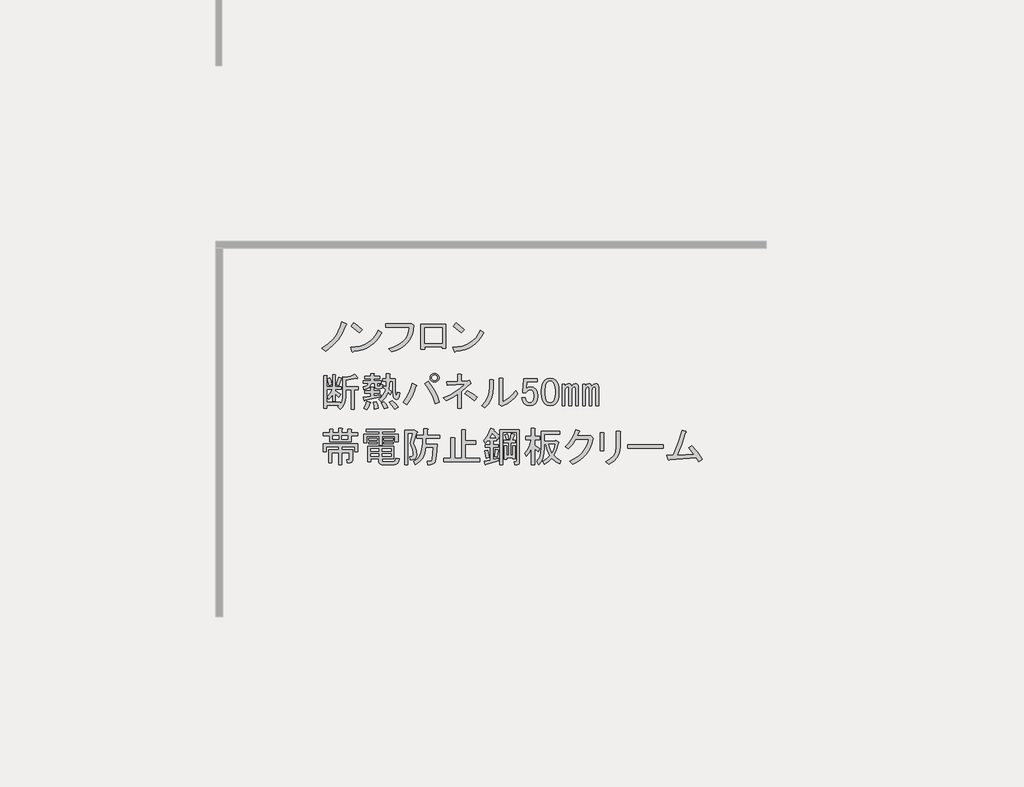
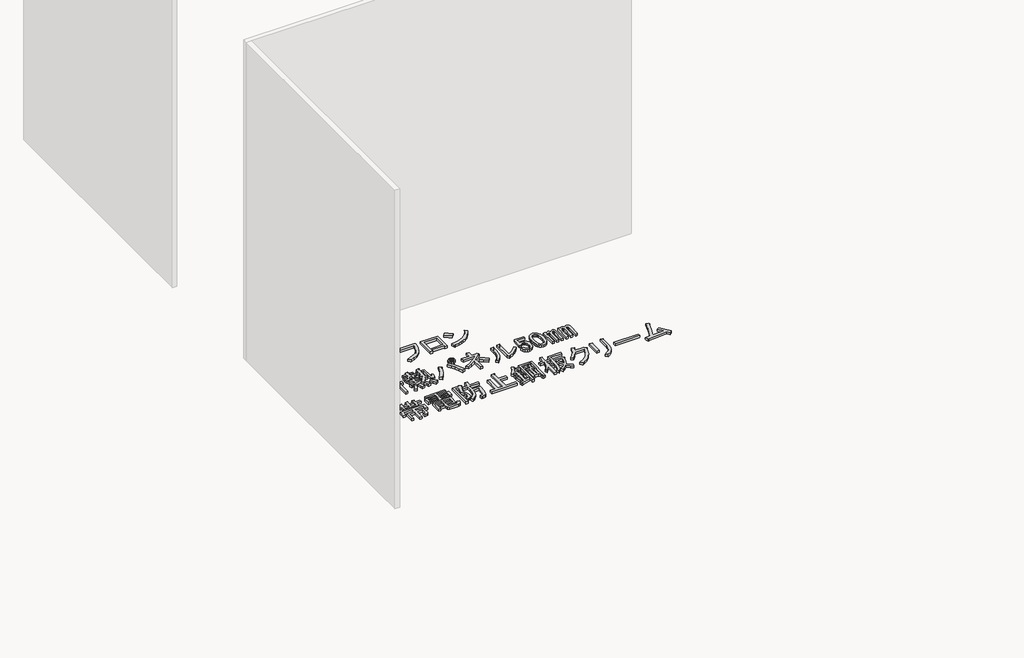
# One storey, part 68 of 117: 1 proxy.
"""IFC4 building model written with IfcOpenShell, lengths in millimetres."""

from ifc_helpers import new_model, si_unit, frame, origin, place, context, project, spatial, polyline, outline, extrude, element, save

model = new_model("IFC4")

# Units and contexts
model_context = context("Model", 3, world=origin())
ifc_project = project(units=[si_unit("LENGTHUNIT", "METRE", prefix="MILLI")], contexts=[model_context])

# Site, building, storey
site = spatial("IfcSite", under=ifc_project)
building = spatial("IfcBuilding", under=site)
storey = spatial("IfcBuildingStorey", under=building, Name="レベル 1", Elevation=500.0)

# Proxy
placement = place(None, origin())
element("IfcBuildingElementProxy", 1, Name="200㎜\u3000MS Pゴシック", ObjectType="200㎜\u3000MS Pゴシック", at=placement, inside=storey, context=model_context, shape_type="SweptSolid", body=[
    extrude(outline(polyline([(-15056.3293015, 7392.9503118), (-15081.9047498, 7333.1784775), (-15110.353844, 7287.2001434), (-15152.0217093, 7241.7965385), (-15201.1610538, 7204.439142), (-15228.7480543, 7226.2788507), (-15181.0455327, 7256.7394971), (-15141.3892195, 7295.2463519), (-15124.0036619, 7319.1694538), (-15108.6296565, 7347.2593423), (-15095.2672031, 7379.5160173), (-15083.9163019, 7415.9394788), (-15052.8809264, 7402.1459786), (-15049.7199159, 7397.5481452), (-15056.3293015, 7392.9503118)])), frame((0.0, 0.0, 500.0), z_axis=(0.0, 0.0, 1.0), x_axis=(1.0, 0.0, 0.0)), (0.0, 0.0, 1.0), 25.0),
    extrude(outline(polyline([(-14956.6022948, 7337.7763109), (-15015.2246708, 7384.9041033), (-14995.6838788, 7409.0427287), (-14968.3842429, 7389.2145721), (-14934.7625862, 7359.6160196), (-14956.6022948, 7337.7763109)])), frame((0.0, 0.0, 500.0), z_axis=(0.0, 0.0, 1.0), x_axis=(1.0, 0.0, 0.0)), (0.0, 0.0, 1.0), 25.0),
    extrude(outline(polyline([(-14794.5286672, 7337.7763109), (-14811.052131, 7308.034076), (-14830.1618761, 7282.0275808), (-14851.8579025, 7259.7568252), (-14876.1402102, 7241.2218093), (-14903.0087992, 7226.422533), (-14932.4636694, 7215.3589964), (-14964.504821, 7208.0311994), (-14999.1322539, 7204.439142), (-15004.8795456, 7196.3929336), (-15010.6268374, 7202.1402253), (-15019.8225042, 7232.0261425), (-14983.9917321, 7234.7022252), (-14951.2142088, 7241.0062859), (-14921.4899342, 7250.9383244), (-14894.8189084, 7264.4983409), (-14871.2011313, 7281.6863354), (-14850.636603, 7302.5023077), (-14833.1253234, 7326.946258), (-14818.6672926, 7355.0181862), (-14794.5286672, 7337.7763109)])), frame((0.0, 0.0, 500.0), z_axis=(0.0, 0.0, 1.0), x_axis=(1.0, 0.0, 0.0)), (0.0, 0.0, 1.0), 25.0),
    extrude(outline(polyline([(-14743.7685864, 7222.8304757), (-14709.985287, 7232.5110702), (-14680.4765359, 7244.8857078), (-14655.242333, 7259.9543884), (-14634.2826783, 7277.717112), (-14617.597572, 7298.1738786), (-14605.1870138, 7321.3246882), (-14597.0510039, 7347.1695409), (-14593.1895423, 7375.7084365), (-14765.6082951, 7375.7084365), (-14765.6082951, 7400.9965202), (-14590.8906256, 7400.9965202), (-14574.7982086, 7404.4448953), (-14562.1541668, 7392.9503118), (-14565.674383, 7356.4550091), (-14573.9361149, 7323.4080815), (-14586.9393625, 7293.8095289), (-14604.6841258, 7267.6593514), (-14627.1704048, 7244.957549), (-14654.3981995, 7225.7041216), (-14686.3675099, 7209.8990692), (-14723.078336, 7197.5423919), (-14743.7685864, 7222.8304757)])), frame((0.0, 0.0, 500.0), z_axis=(0.0, 0.0, 1.0), x_axis=(1.0, 0.0, 0.0)), (0.0, 0.0, 1.0), 25.0),
    extrude(outline(polyline([(-14329.044013, 7223.979934), (-14355.4815551, 7223.979934), (-14355.4815551, 7236.6239759), (-14483.0714321, 7236.6239759), (-14483.0714321, 7218.2326423), (-14509.5089742, 7218.2326423), (-14509.5089742, 7397.5481452), (-14329.044013, 7397.5481452), (-14329.044013, 7223.979934)]), holes=[polyline([(-14483.0714321, 7372.2600614), (-14483.0714321, 7261.9120596), (-14355.4815551, 7261.9120596), (-14355.4815551, 7372.2600614), (-14483.0714321, 7372.2600614)])]), frame((0.0, 0.0, 500.0), z_axis=(0.0, 0.0, 1.0), x_axis=(1.0, 0.0, 0.0)), (0.0, 0.0, 1.0), 25.0),
    extrude(outline(polyline([(-14052.9900951, 7337.7763109), (-14069.5135589, 7308.034076), (-14088.623304, 7282.0275808), (-14110.3193304, 7259.7568252), (-14134.6016381, 7241.2218093), (-14161.4702271, 7226.422533), (-14190.9250974, 7215.3589964), (-14222.9662489, 7208.0311994), (-14257.5936818, 7204.439142), (-14263.3409736, 7196.3929336), (-14269.0882653, 7202.1402253), (-14278.2839321, 7232.0261425), (-14242.4531601, 7234.7022252), (-14209.6756367, 7241.0062859), (-14179.9513622, 7250.9383244), (-14153.2803363, 7264.4983409), (-14129.6625593, 7281.6863354), (-14109.0980309, 7302.5023077), (-14091.5867514, 7326.946258), (-14077.1287205, 7355.0181862), (-14052.9900951, 7337.7763109)])), frame((0.0, 0.0, 500.0), z_axis=(0.0, 0.0, 1.0), x_axis=(1.0, 0.0, 0.0)), (0.0, 0.0, 1.0), 25.0),
    extrude(outline(polyline([(-14215.0637228, 7337.7763109), (-14273.6860987, 7384.9041033), (-14254.1453067, 7409.0427287), (-14226.8456709, 7389.2145721), (-14193.2240141, 7359.6160196), (-14215.0637228, 7337.7763109)])), frame((0.0, 0.0, 500.0), z_axis=(0.0, 0.0, 1.0), x_axis=(1.0, 0.0, 0.0)), (0.0, 0.0, 1.0), 25.0),
    extrude(outline(polyline([(-15122.9978859, 6960.7654779), (-15105.7560106, 7013.6405621), (-15085.0657603, 7007.8932704), (-15083.3415727, 7004.7322599), (-15087.364677, 7002.1459786), (-15104.6065522, 6953.8687278), (-15122.9978859, 6960.7654779)])), frame((0.0, 0.0, 500.0), z_axis=(0.0, 0.0, 1.0), x_axis=(1.0, 0.0, 0.0)), (0.0, 0.0, 1.0), 25.0),
    extrude(outline(polyline([(-14968.9704667, 7009.0427287), (-14970.6946542, 7004.4448953), (-14978.1661335, 7006.743812), (-15055.1798431, 6994.0997701), (-15055.1798431, 6944.673061), (-14963.2231749, 6944.673061), (-14963.2231749, 6922.8333523), (-14994.2585505, 6922.8333523), (-14994.2585505, 6782.5994334), (-15017.2477175, 6782.5994334), (-15017.2477175, 6922.8333523), (-15055.1798431, 6922.8333523), (-15055.1798431, 6873.4066432), (-15057.7661244, 6845.6041193), (-15065.5249683, 6820.8189236), (-15078.4563747, 6799.051056), (-15096.5603438, 6780.3005167), (-15113.8022191, 6799.8413086), (-15103.4570939, 6809.0369755), (-15193.1148454, 6809.0369755), (-15193.1148454, 6787.1972668), (-15216.1040124, 6787.1972668), (-15216.1040124, 7026.284604), (-15194.2643037, 7026.284604), (-15189.3791057, 7023.9856873), (-15193.1148454, 7019.3878539), (-15193.1148454, 6943.5236026), (-15150.5848863, 6943.5236026), (-15150.5848863, 7030.8824374), (-15132.1935527, 7030.8824374), (-15127.3083547, 7028.5835207), (-15131.0440943, 7023.9856873), (-15131.0440943, 6943.5236026), (-15087.364677, 6943.5236026), (-15087.364677, 6925.132269), (-15131.0440943, 6925.132269), (-15131.0440943, 6915.9366022), (-15090.813052, 6889.4990601), (-15104.6065522, 6867.6593514), (-15131.0440943, 6894.0968935), (-15131.0440943, 6841.2218093), (-15150.5848863, 6841.2218093), (-15150.5848863, 6889.4990601), (-15163.8036574, 6869.6709035), (-15178.1718868, 6853.8658512), (-15190.8159287, 6872.2571848), (-15168.97622, 6896.3958102), (-15151.7343447, 6925.132269), (-15193.1148454, 6925.132269), (-15193.1148454, 6830.8766841), (-15095.4108854, 6830.8766841), (-15095.4108854, 6817.0831839), (-15082.479479, 6841.2218093), (-15078.1690102, 6874.5561015), (-15078.1690102, 7019.3878539), (-15056.3293015, 7013.6405621), (-15020.1213634, 7021.1120414), (-14989.660717, 7034.3308125), (-14968.9704667, 7009.0427287)])), frame((0.0, 0.0, 500.0), z_axis=(0.0, 0.0, 1.0), x_axis=(1.0, 0.0, 0.0)), (0.0, 0.0, 1.0), 25.0),
    extrude(outline(polyline([(-15177.0224284, 6952.7192695), (-15189.6664703, 7003.2954369), (-15170.1256783, 7010.1921871), (-15162.3668344, 6986.0535617), (-15157.4816364, 6959.6160196), (-15177.0224284, 6952.7192695)])), frame((0.0, 0.0, 500.0), z_axis=(0.0, 0.0, 1.0), x_axis=(1.0, 0.0, 0.0)), (0.0, 0.0, 1.0), 25.0),
    extrude(outline(polyline([(-14878.1632569, 6832.0261425), (-14874.7148818, 6827.1409445), (-14880.4621736, 6823.979934), (-14890.2325696, 6798.4044857), (-14901.1524239, 6779.1510583), (-14924.141591, 6790.6456418), (-14911.4975491, 6814.209538), (-14901.1524239, 6841.2218093), (-14878.1632569, 6832.0261425)])), frame((0.0, 0.0, 500.0), z_axis=(0.0, 0.0, 1.0), x_axis=(1.0, 0.0, 0.0)), (0.0, 0.0, 1.0), 25.0),
    extrude(outline(polyline([(-14833.3343812, 6836.6239759), (-14823.2766206, 6809.32434), (-14818.3914226, 6787.1972668), (-14847.1278814, 6781.449975), (-14849.7141627, 6803.0023191), (-14857.4730066, 6833.1756008), (-14833.3343812, 6836.6239759)])), frame((0.0, 0.0, 500.0), z_axis=(0.0, 0.0, 1.0), x_axis=(1.0, 0.0, 0.0)), (0.0, 0.0, 1.0), 25.0),
    extrude(outline(polyline([(-14718.388546, 6842.3712677), (-14693.6751914, 6821.1062881), (-14674.7091286, 6796.3929336), (-14701.1466707, 6781.449975), (-14720.4000981, 6811.0485276), (-14739.0787963, 6830.8766841), (-14718.388546, 6842.3712677)])), frame((0.0, 0.0, 500.0), z_axis=(0.0, 0.0, 1.0), x_axis=(1.0, 0.0, 0.0)), (0.0, 0.0, 1.0), 25.0),
    extrude(outline(polyline([(-14777.0109219, 6783.7488917), (-14785.344495, 6808.4622463), (-14798.8506306, 6829.7272258), (-14778.1603803, 6837.7734343), (-14761.2058696, 6816.2210902), (-14749.4239215, 6792.9445585), (-14777.0109219, 6783.7488917)])), frame((0.0, 0.0, 500.0), z_axis=(0.0, 0.0, 1.0), x_axis=(1.0, 0.0, 0.0)), (0.0, 0.0, 1.0), 25.0),
    extrude(outline(polyline([(-14916.0953825, 6846.9691011), (-14918.1069346, 6842.0839031), (-14921.8426743, 6843.520726), (-14927.589966, 6867.6593514), (-14872.4159651, 6875.7055599), (-14872.4159651, 6898.6947269), (-14916.0953825, 6898.6947269), (-14916.0953825, 6917.0860605), (-14872.4159651, 6917.0860605), (-14872.4159651, 6940.0752276), (-14854.0246315, 6940.0752276), (-14849.1394335, 6937.7763109), (-14852.8751732, 6933.1784775), (-14852.8751732, 6917.0860605), (-14808.0462974, 6917.0860605), (-14808.0462974, 6898.6947269), (-14852.8751732, 6898.6947269), (-14852.8751732, 6879.1539349), (-14802.2990057, 6888.3496017), (-14802.2990057, 6872.2571848), (-14916.0953825, 6846.9691011)])), frame((0.0, 0.0, 500.0), z_axis=(0.0, 0.0, 1.0), x_axis=(1.0, 0.0, 0.0)), (0.0, 0.0, 1.0), 25.0),
    extrude(outline(polyline([(-14845.978423, 6968.8116864), (-14871.2665068, 6968.8116864), (-14875.8643402, 6951.3542877), (-14886.2094654, 6938.0636755), (-14902.3018823, 6928.9398498), (-14924.141591, 6923.9828107), (-14928.7394244, 6943.5236026), (-14903.4513406, 6952.1445403), (-14895.9798614, 6959.4723373), (-14891.9567571, 6968.8116864), (-14927.589966, 6968.8116864), (-14927.589966, 6987.20302), (-14873.5654235, 6987.20302), (-14873.5654235, 7004.4448953), (-14917.2448409, 7004.4448953), (-14917.2448409, 7022.8362289), (-14873.5654235, 7022.8362289), (-14873.5654235, 7041.2275626), (-14851.7257148, 7041.2275626), (-14846.8405168, 7038.9286459), (-14850.5762564, 7034.3308125), (-14850.5762564, 7022.8362289), (-14808.0462974, 7022.8362289), (-14808.0462974, 7004.4448953), (-14850.5762564, 7004.4448953), (-14850.5762564, 6987.20302), (-14797.7011723, 6987.20302), (-14797.7011723, 6968.8116864), (-14826.4376311, 6968.8116864), (-14826.4376311, 6956.1676445), (-14825.0008081, 6950.9950819), (-14820.6903393, 6949.2708944), (-14810.3452141, 6949.2708944), (-14806.6094745, 6952.4319049), (-14806.8968391, 6961.9149363), (-14787.3560471, 6959.6160196), (-14790.229693, 6938.0636755), (-14795.5459378, 6932.6755894), (-14803.448464, 6930.8795608), (-14827.5870894, 6930.8795608), (-14841.3805896, 6935.7647588), (-14845.978423, 6950.4203528), (-14845.978423, 6968.8116864)])), frame((0.0, 0.0, 500.0), z_axis=(0.0, 0.0, 1.0), x_axis=(1.0, 0.0, 0.0)), (0.0, 0.0, 1.0), 25.0),
    extrude(outline(polyline([(-14714.9401709, 6986.0535617), (-14736.7798796, 6986.0535617), (-14741.377713, 6928.5806441), (-14721.836921, 6910.1893104), (-14732.1820462, 6888.3496017), (-14748.2744631, 6904.4420187), (-14767.5278905, 6866.7972576), (-14797.7011723, 6834.3250592), (-14814.9430475, 6855.0153095), (-14799.8564067, 6866.9409399), (-14786.7813179, 6882.0275808), (-14775.7177813, 6900.2752321), (-14766.6657967, 6921.683894), (-14783.907672, 6936.6268525), (-14775.8614636, 6953.8687278), (-14762.0679633, 6943.5236026), (-14759.7690466, 6986.0535617), (-14787.3560471, 6986.0535617), (-14787.3560471, 7004.4448953), (-14759.7690466, 7004.4448953), (-14759.7690466, 7038.9286459), (-14737.9293379, 7038.9286459), (-14733.04414, 7036.6297292), (-14736.7798796, 7032.0318957), (-14736.7798796, 7004.4448953), (-14695.3993789, 7004.4448953), (-14695.3993789, 6907.8903937), (-14691.9510039, 6883.7517683), (-14688.7181523, 6881.7402162), (-14685.9163475, 6884.9012267), (-14681.6058787, 6906.7409354), (-14662.0650867, 6899.8441853), (-14666.591079, 6873.0474374), (-14674.421764, 6857.0268616), (-14685.5571418, 6851.7824579), (-14699.9972123, 6857.3142262), (-14706.5347567, 6864.6420232), (-14711.2044313, 6876.280289), (-14714.9401709, 6912.4882271), (-14714.9401709, 6986.0535617)])), frame((0.0, 0.0, 500.0), z_axis=(0.0, 0.0, 1.0), x_axis=(1.0, 0.0, 0.0)), (0.0, 0.0, 1.0), 25.0),
    extrude(outline(polyline([(-14456.3120417, 6983.754645), (-14429.6589762, 6947.0438188), (-14407.1726971, 6909.3272167), (-14388.8532047, 6870.6048384), (-14374.7004987, 6830.8766841), (-14405.7358742, 6820.531559), (-14421.1817208, 6863.6362472), (-14438.7828018, 6902.143102), (-14458.5391173, 6936.0521234), (-14480.4506671, 6965.3633113), (-14456.3120417, 6983.754645)])), frame((0.0, 0.0, 500.0), z_axis=(0.0, 0.0, 1.0), x_axis=(1.0, 0.0, 0.0)), (0.0, 0.0, 1.0), 25.0),
    extrude(outline(polyline([(-14543.6708765, 6957.3171029), (-14539.6477722, 6951.8571757), (-14545.9697932, 6946.9719777), (-14557.8954236, 6911.5542922), (-14572.9820644, 6877.717112), (-14591.2297158, 6845.460437), (-14612.6383776, 6814.7842672), (-14639.0759197, 6832.0261425), (-14615.8712292, 6863.4925649), (-14596.8333252, 6896.9705394), (-14581.9622078, 6932.460066), (-14571.2578769, 6969.9611447), (-14543.6708765, 6957.3171029)])), frame((0.0, 0.0, 500.0), z_axis=(0.0, 0.0, 1.0), x_axis=(1.0, 0.0, 0.0)), (0.0, 0.0, 1.0), 25.0),
    extrude(outline(polyline([(-14410.3337076, 6978.0073532), (-14422.9777495, 6980.3062699), (-14433.3228747, 6987.20302), (-14440.2196248, 6997.5481452), (-14442.5185415, 7010.1921871), (-14440.2196248, 7022.8362289), (-14433.3228747, 7033.1813541), (-14422.9777495, 7040.0781042), (-14410.3337076, 7042.3770209), (-14397.6896657, 7040.0781042), (-14387.3445406, 7033.1813541), (-14380.4477905, 7022.8362289), (-14378.1488738, 7010.1921871), (-14380.4477905, 6997.5481452), (-14387.3445406, 6987.20302), (-14397.6896657, 6980.3062699), (-14410.3337076, 6978.0073532)]), holes=[polyline([(-14410.3337076, 6989.5019367), (-14402.0001346, 6990.9387597), (-14395.390749, 6995.2492285), (-14391.0802802, 7001.858614), (-14389.6434573, 7010.1921871), (-14391.0802802, 7018.5257601), (-14395.390749, 7025.1351456), (-14402.0001346, 7029.4456145), (-14410.3337076, 7030.8824374), (-14418.6672807, 7029.4456145), (-14425.2766662, 7025.1351456), (-14429.587135, 7018.5257601), (-14431.023958, 7010.1921871), (-14429.587135, 7001.858614), (-14425.2766662, 6995.2492285), (-14418.6672807, 6990.9387597), (-14410.3337076, 6989.5019367)])]), frame((0.0, 0.0, 500.0), z_axis=(0.0, 0.0, 1.0), x_axis=(1.0, 0.0, 0.0)), (0.0, 0.0, 1.0), 25.0),
    extrude(outline(polyline([(-14120.6702029, 6844.6701844), (-14157.7402348, 6873.9813723), (-14190.7871624, 6895.2463519), (-14173.5452871, 6917.0860605), (-14134.7510677, 6893.8095289), (-14101.1294109, 6867.6593514), (-14120.6702029, 6844.6701844)])), frame((0.0, 0.0, 500.0), z_axis=(0.0, 0.0, 1.0), x_axis=(1.0, 0.0, 0.0)), (0.0, 0.0, 1.0), 25.0),
    extrude(outline(polyline([(-14166.648537, 6988.3524784), (-14159.7517869, 6990.6513951), (-14147.107745, 6973.4095198), (-14145.9582866, 6967.3748634), (-14151.7055784, 6965.3633113), (-14214.9257878, 6909.0398521), (-14214.9257878, 6788.3467251), (-14241.3633299, 6788.3467251), (-14241.3633299, 6890.6485184), (-14281.5943722, 6866.5098931), (-14326.4232479, 6844.6701844), (-14345.9640399, 6865.3604347), (-14300.4167527, 6884.8293855), (-14259.1799343, 6907.6030291), (-14222.2535848, 6933.6813655), (-14189.637704, 6963.0643946), (-14319.5264978, 6957.3171029), (-14322.9748729, 6982.6051866), (-14241.3633299, 6984.9041033), (-14241.3633299, 7036.6297292), (-14218.3741628, 7036.6297292), (-14212.3395065, 7033.1813541), (-14214.9257878, 7027.4340623), (-14214.9257878, 6986.0535617), (-14166.648537, 6988.3524784)])), frame((0.0, 0.0, 500.0), z_axis=(0.0, 0.0, 1.0), x_axis=(1.0, 0.0, 0.0)), (0.0, 0.0, 1.0), 25.0),
    extrude(outline(polyline([(-14067.703162, 6806.7380587), (-14042.5587606, 6835.9774056), (-14024.5984738, 6868.5214452), (-14013.8223018, 6904.3701775), (-14010.2302444, 6943.5236026), (-14010.2302444, 6995.2492285), (-13986.091619, 6995.2492285), (-13980.3443273, 6991.8008534), (-13983.7927023, 6986.0535617), (-13983.7927023, 6944.673061), (-13987.6002831, 6898.9102504), (-13999.0230255, 6858.17632), (-14018.0609295, 6822.4712699), (-14044.713995, 6791.7951002), (-14067.703162, 6806.7380587)])), frame((0.0, 0.0, 500.0), z_axis=(0.0, 0.0, 1.0), x_axis=(1.0, 0.0, 0.0)), (0.0, 0.0, 1.0), 25.0),
    extrude(outline(polyline([(-13913.6757429, 6837.7734343), (-13888.8905471, 6849.9864292), (-13865.1111275, 6867.0846222), (-13842.3374839, 6889.0680132), (-13820.5696163, 6915.9366022), (-13804.4771994, 6894.0968935), (-13827.753731, 6866.2943696), (-13853.9039086, 6842.6586322), (-13882.9277319, 6823.1896814), (-13914.8252012, 6807.8875171), (-13924.020868, 6803.2896837), (-13942.4122017, 6817.0831839), (-13940.113285, 6822.8304757), (-13940.113285, 7007.8932704), (-13915.9746596, 7007.8932704), (-13910.2273678, 7004.4448953), (-13913.6757429, 6998.6976035), (-13913.6757429, 6837.7734343)])), frame((0.0, 0.0, 500.0), z_axis=(0.0, 0.0, 1.0), x_axis=(1.0, 0.0, 0.0)), (0.0, 0.0, 1.0), 25.0),
    extrude(outline(polyline([(-13763.0966987, 7004.4448953), (-13664.2432805, 7004.4448953), (-13664.2432805, 6982.6051866), (-13741.2569901, 6982.6051866), (-13741.2569901, 6979.1568116), (-13744.7053651, 6936.6268525), (-13745.8548235, 6929.7301024), (-13730.3371357, 6940.0752276), (-13713.6699896, 6943.5236026), (-13692.6923747, 6939.787863), (-13675.737864, 6928.5806441), (-13663.6685513, 6908.7524875), (-13659.6454471, 6881.4528516), (-13664.8180096, 6846.9691011), (-13671.2837129, 6833.1756008), (-13680.3356974, 6821.6810173), (-13698.4396664, 6809.6117046), (-13720.5667397, 6805.5886004), (-13741.5443546, 6809.32434), (-13758.4988653, 6820.531559), (-13770.568178, 6839.2102572), (-13776.890199, 6865.3604347), (-13750.4526569, 6865.3604347), (-13746.4295526, 6846.6817365), (-13738.9580734, 6834.3250592), (-13731.1992295, 6829.1524966), (-13721.7161981, 6827.4283091), (-13709.3595208, 6829.4398612), (-13699.8764894, 6835.4745175), (-13690.393458, 6852.4290282), (-13687.2324475, 6878.0044766), (-13689.8187288, 6902.143102), (-13697.5775727, 6917.0860605), (-13705.049052, 6922.2586231), (-13713.6699896, 6923.9828107), (-13726.6013961, 6921.3965294), (-13737.808615, 6913.6376855), (-13747.0042818, 6903.2925603), (-13769.9934489, 6903.2925603), (-13768.8439905, 6911.3387688), (-13763.0966987, 6999.8470619), (-13763.0966987, 7004.4448953)])), frame((0.0, 0.0, 500.0), z_axis=(0.0, 0.0, 1.0), x_axis=(1.0, 0.0, 0.0)), (0.0, 0.0, 1.0), 25.0),
    extrude(outline(polyline([(-13634.3573633, 6918.2355189), (-13632.9205404, 6941.7994151), (-13628.6100716, 6961.9149363), (-13621.4259569, 6978.5820824), (-13611.3681963, 6991.8008534), (-13593.2642272, 7003.8701661), (-13571.137154, 7007.8932704), (-13549.0100807, 7003.8701661), (-13530.9061116, 6991.8008534), (-13520.8483511, 6978.5820824), (-13513.6642364, 6961.9149363), (-13509.3537675, 6941.7994151), (-13507.9169446, 6918.2355189), (-13507.9169446, 6895.2463519), (-13509.3537675, 6872.1853437), (-13513.6642364, 6852.4290282), (-13520.8483511, 6835.9774056), (-13530.9061116, 6822.8304757), (-13549.0100807, 6810.761163), (-13571.137154, 6806.7380587), (-13593.2642272, 6810.761163), (-13611.3681963, 6822.8304757), (-13621.4259569, 6835.9774056), (-13628.6100716, 6852.4290282), (-13632.9205404, 6872.1853437), (-13634.3573633, 6895.2463519), (-13634.3573633, 6918.2355189)]), holes=[polyline([(-13571.137154, 6986.0535617), (-13582.0570083, 6983.754645), (-13591.8274043, 6976.8578948), (-13598.3649487, 6967.7340692), (-13603.0346232, 6955.3055507), (-13606.7703629, 6920.5344356), (-13606.7703629, 6894.0968935), (-13602.7472586, 6859.9005075), (-13597.7183783, 6847.3283068), (-13590.6779459, 6837.7734343), (-13581.1949145, 6830.8766841), (-13571.137154, 6828.5777674), (-13560.2172996, 6830.8766841), (-13550.4469036, 6837.7734343), (-13543.9093592, 6846.8972599), (-13539.2396847, 6859.3257784), (-13535.503945, 6894.0968935), (-13535.503945, 6920.5344356), (-13539.2396847, 6955.3055507), (-13543.9093592, 6967.7340692), (-13550.4469036, 6976.8578948), (-13560.2172996, 6983.754645), (-13571.137154, 6986.0535617)])]), frame((0.0, 0.0, 500.0), z_axis=(0.0, 0.0, 1.0), x_axis=(1.0, 0.0, 0.0)), (0.0, 0.0, 1.0), 25.0),
    extrude(outline(polyline([(-13463.0880689, 6806.7380587), (-13482.6288608, 6806.7380587), (-13482.6288608, 6964.213853), (-13463.0880689, 6964.213853), (-13463.0880689, 6946.9719777), (-13451.0187562, 6962.4896654), (-13437.7999851, 6967.662228), (-13428.6043183, 6966.2254051), (-13421.7075682, 6961.9149363), (-13414.8108181, 6948.121436), (-13401.8794116, 6962.77703), (-13388.373276, 6967.662228), (-13380.0397029, 6966.2254051), (-13373.4303174, 6961.9149363), (-13368.2577548, 6953.2939986), (-13366.5335673, 6941.2246859), (-13366.5335673, 6806.7380587), (-13386.0743593, 6806.7380587), (-13386.0743593, 6930.8795608), (-13388.6606406, 6940.3625922), (-13396.4194844, 6943.5236026), (-13406.7646096, 6938.9257692), (-13412.799266, 6930.3048316), (-13414.8108181, 6920.5344356), (-13414.8108181, 6806.7380587), (-13434.3516101, 6806.7380587), (-13434.3516101, 6930.8795608), (-13436.9378914, 6940.3625922), (-13444.6967352, 6943.5236026), (-13455.0418604, 6938.9257692), (-13461.0765167, 6930.3048316), (-13463.0880689, 6920.5344356), (-13463.0880689, 6806.7380587)])), frame((0.0, 0.0, 500.0), z_axis=(0.0, 0.0, 1.0), x_axis=(1.0, 0.0, 0.0)), (0.0, 0.0, 1.0), 25.0),
    extrude(outline(polyline([(-13241.2426069, 6967.662228), (-13232.9090339, 6966.2254051), (-13226.2996483, 6961.9149363), (-13221.1270858, 6953.2939986), (-13219.4028982, 6941.2246859), (-13219.4028982, 6806.7380587), (-13238.9436902, 6806.7380587), (-13238.9436902, 6930.8795608), (-13241.5299715, 6940.3625922), (-13249.2888154, 6943.5236026), (-13259.6339406, 6938.9257692), (-13265.6685969, 6930.3048316), (-13267.680149, 6920.5344356), (-13267.680149, 6806.7380587), (-13287.220941, 6806.7380587), (-13287.220941, 6930.8795608), (-13289.8072223, 6940.3625922), (-13297.5660662, 6943.5236026), (-13307.9111913, 6938.9257692), (-13313.9458477, 6930.3048316), (-13315.9573998, 6920.5344356), (-13315.9573998, 6806.7380587), (-13335.4981918, 6806.7380587), (-13335.4981918, 6964.213853), (-13315.9573998, 6964.213853), (-13315.9573998, 6946.9719777), (-13303.8880871, 6962.4896654), (-13290.6693161, 6967.662228), (-13281.4736492, 6966.2254051), (-13274.5768991, 6961.9149363), (-13267.680149, 6948.121436), (-13254.7487426, 6962.77703), (-13241.2426069, 6967.662228)])), frame((0.0, 0.0, 500.0), z_axis=(0.0, 0.0, 1.0), x_axis=(1.0, 0.0, 0.0)), (0.0, 0.0, 1.0), 25.0),
    extrude(outline(polyline([(-15172.424595, 6546.9719777), (-15172.424595, 6567.662228), (-15172.424595, 6588.3524784), (-15218.4029291, 6588.3524784), (-15218.4029291, 6610.1921871), (-15172.424595, 6610.1921871), (-15172.424595, 6635.4802708), (-15150.5848863, 6635.4802708), (-15145.6996883, 6633.1813541), (-15149.435428, 6628.5835207), (-15149.435428, 6610.1921871), (-15105.7560106, 6610.1921871), (-15105.7560106, 6642.3770209), (-15083.9163019, 6642.3770209), (-15079.0311039, 6640.0781042), (-15082.7668436, 6635.4802708), (-15082.7668436, 6610.1921871), (-15040.2368845, 6610.1921871), (-15040.2368845, 6635.4802708), (-15018.3971758, 6635.4802708), (-15013.5119779, 6633.1813541), (-15017.2477175, 6628.5835207), (-15017.2477175, 6610.1921871), (-14970.1199251, 6610.1921871), (-14970.1199251, 6588.3524784), (-15017.2477175, 6588.3524784), (-15017.2477175, 6546.9719777), (-15172.424595, 6546.9719777)]), holes=[polyline([(-15105.7560106, 6588.3524784), (-15149.435428, 6588.3524784), (-15149.435428, 6565.3633113), (-15105.7560106, 6565.3633113), (-15105.7560106, 6588.3524784)]), polyline([(-15040.2368845, 6588.3524784), (-15082.7668436, 6588.3524784), (-15082.7668436, 6565.3633113), (-15040.2368845, 6565.3633113), (-15040.2368845, 6588.3524784)])]), frame((0.0, 0.0, 500.0), z_axis=(0.0, 0.0, 1.0), x_axis=(1.0, 0.0, 0.0)), (0.0, 0.0, 1.0), 25.0),
    extrude(outline(polyline([(-14967.8210084, 6473.4066432), (-14990.8101754, 6473.4066432), (-14990.8101754, 6510.1893104), (-15082.7668436, 6510.1893104), (-15082.7668436, 6486.050685), (-15005.753134, 6486.050685), (-15005.753134, 6411.3358922), (-15010.3509674, 6397.5423919), (-15024.1444676, 6392.9445585), (-15045.9841763, 6392.9445585), (-15049.4325514, 6414.7842672), (-15033.3401344, 6414.7842672), (-15029.8917594, 6415.9337256), (-15028.742301, 6419.3821006), (-15028.742301, 6464.2109763), (-15082.7668436, 6464.2109763), (-15082.7668436, 6376.8521416), (-15105.7560106, 6376.8521416), (-15105.7560106, 6464.2109763), (-15157.4816364, 6464.2109763), (-15157.4816364, 6391.7951002), (-15180.4708035, 6391.7951002), (-15180.4708035, 6486.050685), (-15105.7560106, 6486.050685), (-15105.7560106, 6510.1893104), (-15197.7126788, 6510.1893104), (-15197.7126788, 6473.4066432), (-15220.7018458, 6473.4066432), (-15220.7018458, 6532.0290191), (-14967.8210084, 6532.0290191), (-14967.8210084, 6473.4066432)])), frame((0.0, 0.0, 500.0), z_axis=(0.0, 0.0, 1.0), x_axis=(1.0, 0.0, 0.0)), (0.0, 0.0, 1.0), 25.0),
    extrude(outline(polyline([(-14888.5083821, 6557.3171029), (-14888.5083821, 6571.1106031), (-14825.2881727, 6571.1106031), (-14825.2881727, 6557.3171029), (-14888.5083821, 6557.3171029)])), frame((0.0, 0.0, 500.0), z_axis=(0.0, 0.0, 1.0), x_axis=(1.0, 0.0, 0.0)), (0.0, 0.0, 1.0), 25.0),
    extrude(outline(polyline([(-14666.6629201, 6421.6810173), (-14669.4647249, 6403.0741603), (-14676.7206807, 6389.7835481), (-14688.4307877, 6381.8091807), (-14704.5950457, 6379.1510583), (-14794.2527972, 6379.1510583), (-14809.770485, 6384.0362563), (-14813.6499069, 6390.1427538), (-14814.9430475, 6398.6918503), (-14814.9430475, 6420.531559), (-14874.7148818, 6420.531559), (-14874.7148818, 6400.990767), (-14894.2556738, 6400.990767), (-14894.2556738, 6513.6376855), (-14706.8939624, 6513.6376855), (-14706.8939624, 6420.531559), (-14791.9538805, 6420.531559), (-14791.9538805, 6410.1864338), (-14789.9423284, 6403.2896837), (-14783.907672, 6400.990767), (-14708.0434208, 6400.990767), (-14701.4340353, 6402.5712722), (-14696.5488373, 6407.3127879), (-14691.9510039, 6426.2788507), (-14666.6629201, 6421.6810173)]), holes=[polyline([(-14874.7148818, 6438.9228926), (-14814.9430475, 6438.9228926), (-14814.9430475, 6458.4636846), (-14874.7148818, 6458.4636846), (-14874.7148818, 6438.9228926)]), polyline([(-14874.7148818, 6476.8550182), (-14814.9430475, 6476.8550182), (-14814.9430475, 6495.2463519), (-14874.7148818, 6495.2463519), (-14874.7148818, 6476.8550182)]), polyline([(-14791.9538805, 6438.9228926), (-14726.4347544, 6438.9228926), (-14726.4347544, 6458.4636846), (-14791.9538805, 6458.4636846), (-14791.9538805, 6438.9228926)]), polyline([(-14791.9538805, 6476.8550182), (-14726.4347544, 6476.8550182), (-14726.4347544, 6495.2463519), (-14791.9538805, 6495.2463519), (-14791.9538805, 6476.8550182)])]), frame((0.0, 0.0, 500.0), z_axis=(0.0, 0.0, 1.0), x_axis=(1.0, 0.0, 0.0)), (0.0, 0.0, 1.0), 25.0),
    extrude(outline(polyline([(-14825.2881727, 6529.7301024), (-14888.5083821, 6529.7301024), (-14888.5083821, 6543.5236026), (-14825.2881727, 6543.5236026), (-14825.2881727, 6529.7301024)])), frame((0.0, 0.0, 500.0), z_axis=(0.0, 0.0, 1.0), x_axis=(1.0, 0.0, 0.0)), (0.0, 0.0, 1.0), 25.0),
    extrude(outline(polyline([(-14778.1603803, 6529.7301024), (-14778.1603803, 6543.5236026), (-14711.4917959, 6543.5236026), (-14711.4917959, 6529.7301024), (-14778.1603803, 6529.7301024)])), frame((0.0, 0.0, 500.0), z_axis=(0.0, 0.0, 1.0), x_axis=(1.0, 0.0, 0.0)), (0.0, 0.0, 1.0), 25.0),
    extrude(outline(polyline([(-14778.1603803, 6557.3171029), (-14778.1603803, 6571.1106031), (-14711.4917959, 6571.1106031), (-14711.4917959, 6557.3171029), (-14778.1603803, 6557.3171029)])), frame((0.0, 0.0, 500.0), z_axis=(0.0, 0.0, 1.0), x_axis=(1.0, 0.0, 0.0)), (0.0, 0.0, 1.0), 25.0),
    extrude(outline(polyline([(-14698.847754, 6618.2383955), (-14790.8044221, 6618.2383955), (-14790.8044221, 6599.8470619), (-14675.8585869, 6599.8470619), (-14675.8585869, 6544.673061), (-14698.847754, 6544.673061), (-14698.847754, 6586.0535617), (-14790.8044221, 6586.0535617), (-14790.8044221, 6520.5344356), (-14813.7935892, 6520.5344356), (-14813.7935892, 6586.0535617), (-14902.3018823, 6586.0535617), (-14902.3018823, 6540.0752276), (-14925.2910493, 6540.0752276), (-14925.2910493, 6599.8470619), (-14813.7935892, 6599.8470619), (-14813.7935892, 6618.2383955), (-14905.7502573, 6618.2383955), (-14905.7502573, 6636.6297292), (-14698.847754, 6636.6297292), (-14698.847754, 6618.2383955)])), frame((0.0, 0.0, 500.0), z_axis=(0.0, 0.0, 1.0), x_axis=(1.0, 0.0, 0.0)), (0.0, 0.0, 1.0), 25.0),
    extrude(outline(polyline([(-14475.8528337, 6504.4420187), (-14483.0369484, 6461.2654893), (-14497.6925424, 6425.9914861), (-14519.8196156, 6398.6200091), (-14549.4181682, 6379.1510583), (-14560.9127517, 6402.1402253), (-14533.2539101, 6421.9683819), (-14513.4975947, 6450.4174761), (-14501.6438055, 6487.487508), (-14497.6925424, 6533.1784775), (-14497.6925424, 6571.1106031), (-14541.3719597, 6571.1106031), (-14541.3719597, 6592.9503118), (-14488.4968756, 6592.9503118), (-14488.4968756, 6641.2275626), (-14463.2087918, 6641.2275626), (-14457.1741355, 6637.7791875), (-14462.0593335, 6632.0318957), (-14462.0593335, 6592.9503118), (-14373.5510404, 6592.9503118), (-14373.5510404, 6571.1106031), (-14474.7033753, 6571.1106031), (-14474.7033753, 6526.2817274), (-14391.942374, 6526.2817274), (-14397.6896657, 6444.0954552), (-14405.7358742, 6399.8413086), (-14410.6210722, 6391.2922121), (-14418.3799161, 6385.1857146), (-14442.5185415, 6380.3005167), (-14460.9098751, 6380.3005167), (-14464.3582502, 6402.1402253), (-14447.1163749, 6402.1402253), (-14434.7596976, 6405.3012358), (-14427.5755829, 6414.7842672), (-14418.3799161, 6504.4420187), (-14475.8528337, 6504.4420187)])), frame((0.0, 0.0, 500.0), z_axis=(0.0, 0.0, 1.0), x_axis=(1.0, 0.0, 0.0)), (0.0, 0.0, 1.0), 25.0),
    extrude(outline(polyline([(-14542.5214181, 6479.1539349), (-14540.5817071, 6451.4950933), (-14545.1076994, 6431.7387779), (-14556.0993949, 6419.8849886), (-14573.5567936, 6415.9337256), (-14587.3502938, 6415.9337256), (-14591.9481272, 6437.7734343), (-14580.4535437, 6437.7734343), (-14572.1199707, 6439.9286687), (-14566.6600435, 6446.3943719), (-14564.0737622, 6457.1705439), (-14564.3611268, 6472.2571848), (-14571.2578769, 6499.2694561), (-14587.3502938, 6534.3279358), (-14568.9589602, 6605.5943537), (-14603.4427108, 6605.5943537), (-14603.4427108, 6376.8521416), (-14626.4318778, 6376.8521416), (-14626.4318778, 6627.4340623), (-14562.0622101, 6627.4340623), (-14559.7632934, 6632.0318957), (-14535.624668, 6619.3878539), (-14534.187845, 6615.6521142), (-14539.073043, 6613.6405621), (-14565.5105851, 6535.4773942), (-14549.9928974, 6503.0051957), (-14542.5214181, 6479.1539349)])), frame((0.0, 0.0, 500.0), z_axis=(0.0, 0.0, 1.0), x_axis=(1.0, 0.0, 0.0)), (0.0, 0.0, 1.0), 25.0),
    extrude(outline(polyline([(-14188.4882457, 6633.1813541), (-14182.4535893, 6629.732979), (-14187.3387873, 6623.9856873), (-14187.3387873, 6553.8687278), (-14111.4745361, 6553.8687278), (-14111.4745361, 6528.5806441), (-14187.3387873, 6528.5806441), (-14187.3387873, 6425.1293924), (-14081.5886189, 6425.1293924), (-14081.5886189, 6399.8413086), (-14344.8145815, 6399.8413086), (-14344.8145815, 6425.1293924), (-14291.9394974, 6425.1293924), (-14291.9394974, 6575.7084365), (-14266.6514136, 6575.7084365), (-14260.6167573, 6572.2600614), (-14265.5019553, 6566.5127697), (-14265.5019553, 6425.1293924), (-14213.7763294, 6425.1293924), (-14213.7763294, 6633.1813541), (-14188.4882457, 6633.1813541)])), frame((0.0, 0.0, 500.0), z_axis=(0.0, 0.0, 1.0), x_axis=(1.0, 0.0, 0.0)), (0.0, 0.0, 1.0), 25.0),
    extrude(outline(polyline([(-13950.5503668, 6565.3633113), (-13991.9308675, 6609.0427287), (-14013.7705762, 6569.9611447), (-13958.5965753, 6569.9611447), (-13958.5965753, 6551.5698111), (-13985.0341174, 6551.5698111), (-13985.0341174, 6522.8333523), (-13947.1019917, 6522.8333523), (-13947.1019917, 6504.4420187), (-13985.0341174, 6504.4420187), (-13985.0341174, 6417.0831839), (-13945.9525334, 6427.4283091), (-13943.6536167, 6407.8875171), (-14035.6102848, 6382.5994334), (-14037.9092016, 6376.8521416), (-14042.507035, 6380.3005167), (-14049.4037851, 6403.2896837), (-14004.5749093, 6412.4853505), (-14004.5749093, 6504.4420187), (-14042.507035, 6504.4420187), (-14042.507035, 6522.8333523), (-14004.5749093, 6522.8333523), (-14004.5749093, 6551.5698111), (-14026.414618, 6551.5698111), (-14041.3575766, 6533.1784775), (-14054.0016185, 6553.8687278), (-14025.8398889, 6591.5134888), (-14001.1265343, 6642.3770209), (-13979.2868256, 6636.6297292), (-13975.8384505, 6632.8939895), (-13981.5857423, 6630.8824374), (-13982.7352007, 6627.4340623), (-13937.9063249, 6589.5019367), (-13950.5503668, 6565.3633113)])), frame((0.0, 0.0, 500.0), z_axis=(0.0, 0.0, 1.0), x_axis=(1.0, 0.0, 0.0)), (0.0, 0.0, 1.0), 25.0),
    extrude(outline(polyline([(-13882.732324, 6602.1459786), (-13875.5482093, 6586.9156554), (-13870.0882822, 6566.5127697), (-13887.3301574, 6560.7654779), (-13898.824741, 6597.5481452), (-13882.732324, 6602.1459786)])), frame((0.0, 0.0, 500.0), z_axis=(0.0, 0.0, 1.0), x_axis=(1.0, 0.0, 0.0)), (0.0, 0.0, 1.0), 25.0),
    extrude(outline(polyline([(-13829.8572398, 6600.9965202), (-13827.2709585, 6597.5481452), (-13833.3056149, 6594.0997701), (-13845.9496568, 6556.1676445), (-13825.2594064, 6556.1676445), (-13825.2594064, 6537.7763109), (-13856.2947819, 6537.7763109), (-13856.2947819, 6449.2680178), (-13841.3518234, 6449.2680178), (-13841.3518234, 6517.0860605), (-13825.2594064, 6517.0860605), (-13825.2594064, 6422.8304757), (-13841.3518234, 6422.8304757), (-13841.3518234, 6430.8766841), (-13887.3301574, 6430.8766841), (-13887.3301574, 6418.2326423), (-13903.4225744, 6418.2326423), (-13903.4225744, 6514.7871438), (-13887.3301574, 6514.7871438), (-13887.3301574, 6449.2680178), (-13872.3871989, 6449.2680178), (-13872.3871989, 6537.7763109), (-13908.0204078, 6537.7763109), (-13908.0204078, 6556.1676445), (-13862.0420737, 6556.1676445), (-13851.6969485, 6605.5943537), (-13829.8572398, 6600.9965202)])), frame((0.0, 0.0, 500.0), z_axis=(0.0, 0.0, 1.0), x_axis=(1.0, 0.0, 0.0)), (0.0, 0.0, 1.0), 25.0),
    extrude(outline(polyline([(-13935.6074082, 6634.3308125), (-13795.3734893, 6634.3308125), (-13795.3734893, 6394.0940169), (-13799.1092289, 6382.8867979), (-13810.3164478, 6379.1510583), (-13826.4088648, 6379.1510583), (-13831.0066982, 6400.990767), (-13819.5121147, 6400.990767), (-13816.0637396, 6402.1402253), (-13814.9142813, 6405.5886004), (-13814.9142813, 6615.9394788), (-13916.0666162, 6615.9394788), (-13916.0666162, 6376.8521416), (-13935.6074082, 6376.8521416), (-13935.6074082, 6634.3308125)])), frame((0.0, 0.0, 500.0), z_axis=(0.0, 0.0, 1.0), x_axis=(1.0, 0.0, 0.0)), (0.0, 0.0, 1.0), 25.0),
    extrude(outline(polyline([(-13947.1019917, 6486.050685), (-13944.5157105, 6482.8896746), (-13948.2514501, 6480.3033933), (-13956.2976586, 6433.1756008), (-13974.6889922, 6435.4745175), (-13968.9417004, 6489.4990601), (-13947.1019917, 6486.050685)])), frame((0.0, 0.0, 500.0), z_axis=(0.0, 0.0, 1.0), x_axis=(1.0, 0.0, 0.0)), (0.0, 0.0, 1.0), 25.0),
    extrude(outline(polyline([(-14024.1157013, 6484.9012267), (-14012.6211178, 6433.1756008), (-14033.3113681, 6427.4283091), (-14044.8059517, 6479.1539349), (-14024.1157013, 6484.9012267)])), frame((0.0, 0.0, 500.0), z_axis=(0.0, 0.0, 1.0), x_axis=(1.0, 0.0, 0.0)), (0.0, 0.0, 1.0), 25.0),
    extrude(outline(polyline([(-13624.1041948, 6405.5886004), (-13595.367736, 6422.8304757), (-13573.5280273, 6444.6701844), (-13591.3446318, 6486.6254142), (-13601.1150278, 6527.4311857), (-13613.7590697, 6527.4311857), (-13613.7590697, 6503.2925603), (-13616.2016686, 6461.5528539), (-13623.5294656, 6427.1409445), (-13635.7424606, 6400.0568321), (-13652.8406536, 6380.3005167), (-13666.6341538, 6403.2896837), (-13653.5590651, 6420.6752413), (-13644.219716, 6442.9459968), (-13638.6161065, 6470.1019504), (-13636.7482367, 6502.143102), (-13636.7482367, 6622.8362289), (-13499.9626928, 6622.8362289), (-13499.9626928, 6600.9965202), (-13613.7590697, 6600.9965202), (-13613.7590697, 6549.2708944), (-13534.4464434, 6549.2708944), (-13528.6991516, 6555.0181862), (-13509.1583596, 6541.2246859), (-13507.7215367, 6537.4889463), (-13512.6067347, 6533.1784775), (-13524.963412, 6486.6254142), (-13543.6421102, 6445.8196427), (-13524.6760474, 6427.4283091), (-13493.0659427, 6409.0369755), (-13502.2616095, 6384.8983501), (-13530.1359745, 6400.990767), (-13558.5850688, 6426.2788507), (-13583.0110587, 6401.8528608), (-13614.908528, 6381.449975), (-13624.1041948, 6405.5886004)]), holes=[polyline([(-13579.2753191, 6527.4311857), (-13571.2291106, 6494.3842581), (-13558.5850688, 6466.5098931), (-13545.9410269, 6492.6600706), (-13537.8948184, 6527.4311857), (-13579.2753191, 6527.4311857)])]), frame((0.0, 0.0, 500.0), z_axis=(0.0, 0.0, 1.0), x_axis=(1.0, 0.0, 0.0)), (0.0, 0.0, 1.0), 25.0),
    extrude(outline(polyline([(-13706.8651962, 6376.8521416), (-13706.8651962, 6496.3958102), (-13724.6818006, 6462.1994242), (-13743.6478634, 6440.072351), (-13755.142447, 6460.7626013), (-13737.9005717, 6483.4644037), (-13724.1070714, 6507.8903937), (-13713.7619463, 6534.0405712), (-13706.8651962, 6561.9149363), (-13748.2456968, 6561.9149363), (-13748.2456968, 6583.754645), (-13706.8651962, 6583.754645), (-13706.8651962, 6643.5264793), (-13685.0254875, 6643.5264793), (-13680.1402895, 6641.2275626), (-13683.8760291, 6636.6297292), (-13683.8760291, 6583.754645), (-13645.9439035, 6583.754645), (-13645.9439035, 6561.9149363), (-13683.8760291, 6561.9149363), (-13683.8760291, 6521.683894), (-13645.9439035, 6495.2463519), (-13656.2890287, 6472.2571848), (-13683.8760291, 6495.2463519), (-13683.8760291, 6376.8521416), (-13706.8651962, 6376.8521416)])), frame((0.0, 0.0, 500.0), z_axis=(0.0, 0.0, 1.0), x_axis=(1.0, 0.0, 0.0)), (0.0, 0.0, 1.0), 25.0),
    extrude(outline(polyline([(-13263.1742723, 6561.9149363), (-13270.1967444, 6531.705734), (-13280.3443064, 6503.7236072), (-13293.6169583, 6477.968556), (-13310.0147001, 6454.4405804), (-13329.5375318, 6433.1396803), (-13352.1854534, 6414.0658557), (-13377.9584649, 6397.2191068), (-13406.8565663, 6382.5994334), (-13427.5468166, 6404.439142), (-13376.8269668, 6431.5950956), (-13355.669749, 6448.2981623), (-13337.314336, 6467.0846222), (-13321.7607277, 6487.9544754), (-13309.0089241, 6510.9077219), (-13299.0589252, 6535.9443616), (-13291.9107311, 6563.0643946), (-13383.8673992, 6563.0643946), (-13410.8796705, 6523.6954461), (-13439.0414001, 6492.9474352), (-13462.0305672, 6507.8903937), (-13434.8027725, 6536.0521234), (-13412.8912226, 6566.5127697), (-13396.2959177, 6599.2723327), (-13385.0168576, 6634.3308125), (-13358.5793155, 6625.1351456), (-13355.7056696, 6621.6867706), (-13360.8782322, 6618.2383955), (-13373.5222741, 6588.3524784), (-13290.7612727, 6588.3524784), (-13280.4161476, 6594.0997701), (-13259.7258972, 6573.4095198), (-13256.5648868, 6566.5127697), (-13263.1742723, 6561.9149363)])), frame((0.0, 0.0, 500.0), z_axis=(0.0, 0.0, 1.0), x_axis=(1.0, 0.0, 0.0)), (0.0, 0.0, 1.0), 25.0),
    extrude(outline(polyline([(-13063.3984107, 6505.591477), (-13068.427291, 6465.504117), (-13083.5139319, 6431.4514133), (-13108.6583333, 6403.433366), (-13143.8604953, 6381.449975), (-13166.8496624, 6400.990767), (-13133.5872113, 6420.531559), (-13109.6641094, 6444.6701844), (-13095.0803565, 6473.4066432), (-13089.8359528, 6506.7409354), (-13089.8359528, 6621.6867706), (-13065.6973274, 6621.6867706), (-13059.3753065, 6618.2383955), (-13063.3984107, 6612.4911038), (-13063.3984107, 6505.591477)])), frame((0.0, 0.0, 500.0), z_axis=(0.0, 0.0, 1.0), x_axis=(1.0, 0.0, 0.0)), (0.0, 0.0, 1.0), 25.0),
    extrude(outline(polyline([(-13181.792621, 6480.3033933), (-13208.230163, 6480.3033933), (-13208.230163, 6610.1921871), (-13182.9420793, 6610.1921871), (-13176.907423, 6607.3185412), (-13181.792621, 6600.9965202), (-13181.792621, 6480.3033933)])), frame((0.0, 0.0, 500.0), z_axis=(0.0, 0.0, 1.0), x_axis=(1.0, 0.0, 0.0)), (0.0, 0.0, 1.0), 25.0),
    extrude(outline(polyline([(-13007.0749514, 6498.6947269), (-13007.0749514, 6523.9828107), (-12750.7457389, 6523.9828107), (-12750.7457389, 6498.6947269), (-13007.0749514, 6498.6947269)])), frame((0.0, 0.0, 500.0), z_axis=(0.0, 0.0, 1.0), x_axis=(1.0, 0.0, 0.0)), (0.0, 0.0, 1.0), 25.0),
    extrude(outline(polyline([(-12723.4346085, 6445.8196427), (-12675.1573577, 6446.9691011), (-12638.662055, 6537.4889463), (-12611.9371483, 6629.732979), (-12585.4996062, 6620.5373122), (-12580.9017728, 6614.5026559), (-12587.798523, 6610.1921871), (-12613.3739713, 6529.1553732), (-12646.4208989, 6449.2680178), (-12526.8772303, 6455.0153095), (-12564.8093559, 6502.143102), (-12541.8201889, 6518.2355189), (-12503.6006987, 6471.9698202), (-12467.105396, 6418.2326423), (-12492.3934797, 6400.990767), (-12510.7848134, 6430.8766841), (-12703.8938165, 6415.9337256), (-12709.9284729, 6410.1864338), (-12714.2389417, 6415.9337256), (-12723.4346085, 6445.8196427)])), frame((0.0, 0.0, 500.0), z_axis=(0.0, 0.0, 1.0), x_axis=(1.0, 0.0, 0.0)), (0.0, 0.0, 1.0), 25.0),
])

save(model, "model.ifc")
